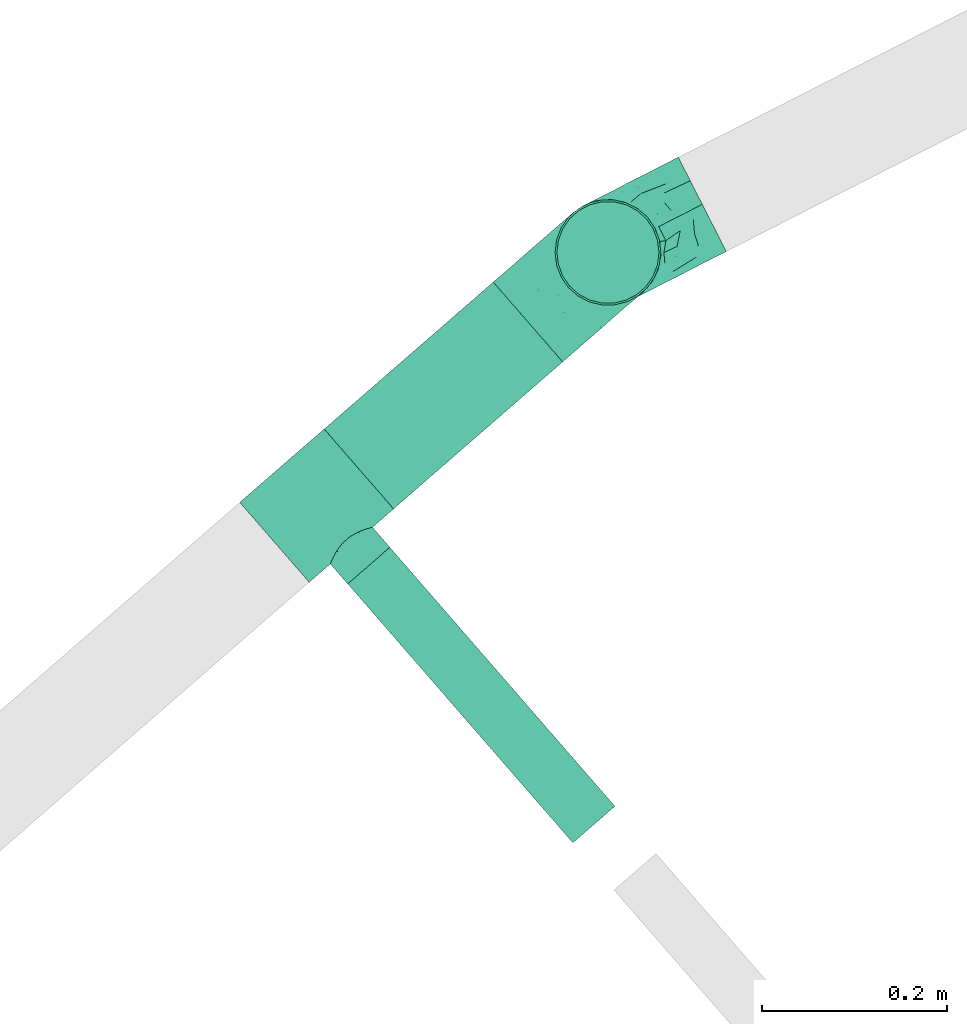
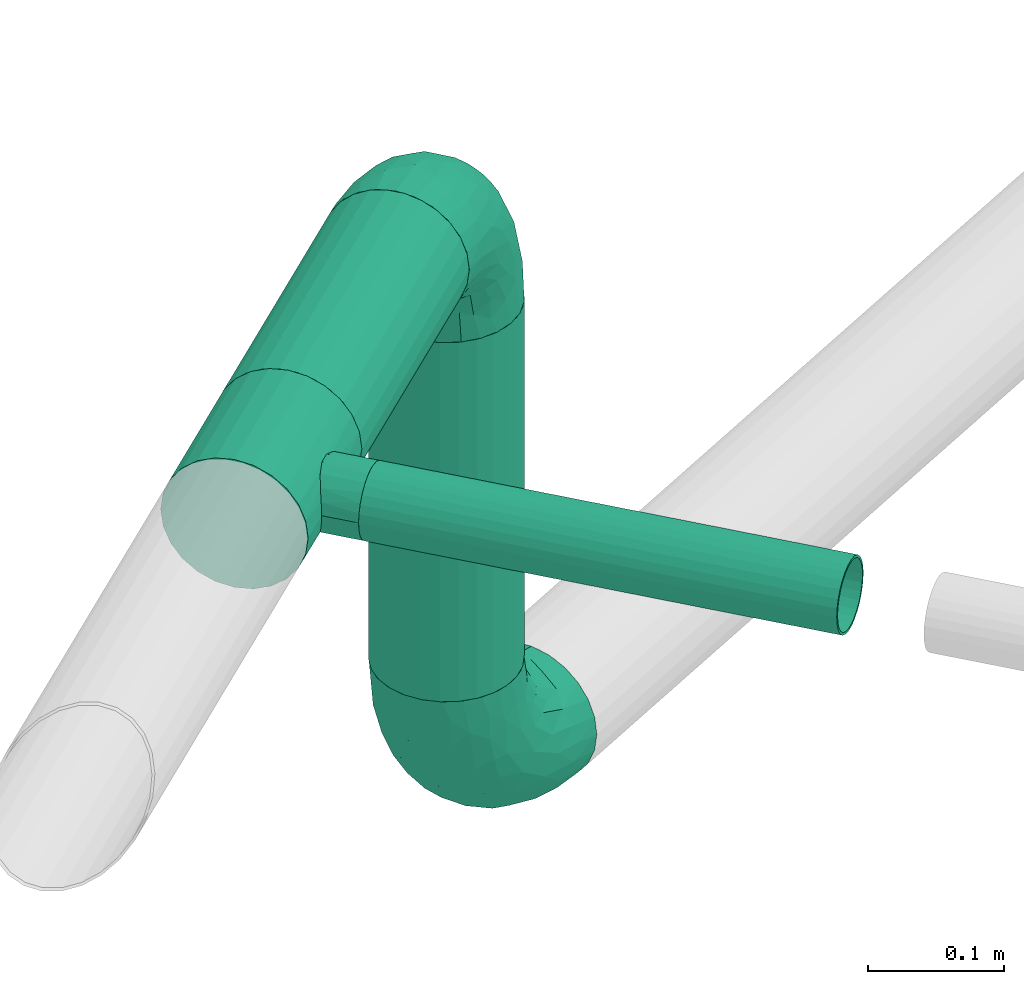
# One storey, part 9 of 94: 3 flow fittings, 3 flow segments.
"""IFC2X3 building model written with IfcOpenShell, lengths in millimetres."""

from ifc_helpers import new_model, entity, si_unit, converted_unit, derived_unit, direction, frame, origin_with_axes, origin_2d_with_axis, place, context, subcontext, project, spatial, hollow_circle, extrude, open_shell, surface_model, source, transform, mapped, type_object, element, save


model = new_model("IFC2X3")

# Units and contexts
model_context = context("Model", 3, precision=0.01, world=frame((0.0, 4.29681676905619e-09, 0.0)), true_north=direction((4.01073788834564e-13, 1.0)))
plan_context = context("Plan", 3, precision=0.01, world=frame((0.0, 4.29681676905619e-09, 0.0)), true_north=direction((4.01073788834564e-13, 1.0)))
body_context = subcontext(model_context, "Body", "Model", "MODEL_VIEW")
ifc_project = project(units=[converted_unit("PLANEANGLEUNIT", "DEGREE", entity("IfcPositiveLengthMeasure", 0.0174532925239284), si_unit("PLANEANGLEUNIT", "RADIAN"), dimensions=[0, 0, 0, 0, 0, 0, 0]), si_unit("AREAUNIT", "SQUARE_METRE"), si_unit("LENGTHUNIT", "METRE", prefix="MILLI"), si_unit("MASSUNIT", "GRAM", prefix="KILO"), si_unit("POWERUNIT", "WATT"), si_unit("PRESSUREUNIT", "PASCAL", prefix="KILO"), si_unit("FORCEUNIT", "NEWTON", prefix="KILO"), si_unit("ELECTRICVOLTAGEUNIT", "VOLT"), si_unit("ELECTRICCURRENTUNIT", "AMPERE"), si_unit("THERMODYNAMICTEMPERATUREUNIT", "DEGREE_CELSIUS"), si_unit("TIMEUNIT", "SECOND"), si_unit("VOLUMEUNIT", "CUBIC_METRE"), derived_unit("LINEARVELOCITYUNIT", [(si_unit("LENGTHUNIT", "METRE"), 1), (si_unit("TIMEUNIT", "SECOND"), -1)]), derived_unit("VOLUMETRICFLOWRATEUNIT", [(si_unit("VOLUMEUNIT", "CUBIC_METRE"), 1), (si_unit("TIMEUNIT", "SECOND"), -1)]), derived_unit("THERMALTRANSMITTANCEUNIT", [(si_unit("POWERUNIT", "WATT"), 1), (si_unit("THERMODYNAMICTEMPERATUREUNIT", "KELVIN"), -1), (si_unit("AREAUNIT", "SQUARE_METRE"), -1)]), derived_unit("SOUNDPRESSUREUNIT", [(si_unit("PRESSUREUNIT", "PASCAL"), 1)])], contexts=[model_context, plan_context])

# Site, building, storey
site_placement = place(None, frame((0.0, -4.29681676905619e-09, 0.0), z_axis=(0.0, 0.0, 1.0), x_axis=(1.0, 0.0, 0.0)))
site = spatial("IfcSite", under=ifc_project, at=site_placement, CompositionType="ELEMENT")
building_placement = place(site_placement, frame((0.0, 4.29681676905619e-09, 0.0), z_axis=(0.0, 0.0, 1.0), x_axis=(1.0, 0.0, 0.0)))
building = spatial("IfcBuilding", under=site, at=building_placement, Name="mc-building", CompositionType="ELEMENT")
storey_placement = place(building_placement, frame((0.0, 0.0, 210900.0), z_axis=(0.0, 0.0, 1.0), x_axis=(1.0, 0.0, 0.0)))
storey = spatial("IfcBuildingStorey", under=building, at=storey_placement, Name="Nivå F", CompositionType="ELEMENT", Elevation=210900.0)

# Flow fittings
pipe_fitting_type_1 = type_object("IfcPipeFittingType", Name="magi_pipe_fe_tee_centric_90_NOR", PredefinedType="JUNCTION")
shared_shape_1 = source(origin_with_axes(), body_context, "Body", "SurfaceModel", [
    surface_model("IfcShellBasedSurfaceModel", [(-60.4, 0.0, -57.2), (-60.4, -14.80445, -55.25096), (-60.4, 14.80445, -55.25096), (-60.4, 28.6, -49.53665), (-60.4, 40.44651, -40.44651), (-60.4, 55.25096, -14.80445), (-60.4, 49.53665, -28.6), (-60.4, -28.6, -49.53665), (-60.4, -40.44651, -40.44651), (-60.4, -49.53665, -28.6), (-60.4, -55.25096, -14.80445), (-60.4, -57.2, 0.0), (-60.4, -28.6, 49.53665), (-60.4, 49.53665, 28.6), (-60.4, 55.25096, 14.80445), (-60.4, 57.2, 0.0), (-60.4, 40.44651, 40.44651), (-60.4, 14.80445, 55.25096), (-60.4, 28.6, 49.53665), (-60.4, 0.0, 57.2), (-60.4, -55.25096, 14.80445), (-60.4, -49.53665, 28.6), (-60.4, -40.44651, 40.44651), (-60.4, -14.80445, 55.25096), (60.4, 14.80445, -55.25096), (60.4, -14.80445, -55.25096), (60.4, 0.0, -57.2), (60.4, 40.44651, -40.44651), (60.4, 28.6, -49.53665), (60.4, 49.53665, -28.6), (60.4, 55.25096, -14.80445), (60.4, -57.2, 0.0), (60.4, -40.44651, -40.44651), (60.4, -28.6, -49.53665), (60.4, -49.53665, -28.6), (60.4, -55.25096, -14.80445), (60.4, 49.53665, 28.6), (60.4, 57.2, 0.0), (60.4, 55.25096, 14.80445), (60.4, -28.6, 49.53665), (60.4, 40.44651, 40.44651), (60.4, 28.6, 49.53665), (60.4, 14.80445, 55.25096), (60.4, 0.0, 57.2), (60.4, -49.53665, 28.6), (60.4, -40.44651, 40.44651), (60.4, -55.25096, 14.80445), (60.4, -14.80445, 55.25096), (60.4, -56.22548, 7.40222), (28.32476, -56.23248, 10.47607), (30.2, -57.2, 0.0), (-28.3257, -56.23295, 10.47352), (-60.4, -56.22548, 7.40222), (-23.08822, -53.78537, 19.46725), (-5.34203, -48.87062, 29.72377), (5.33335, -48.86967, 29.72533), (23.0807, -53.78214, 19.47617), (60.4, -52.3938, 21.70223), (-15.1976, -50.89958, 26.09737), (-60.4, -52.3938, 21.70223), (15.19492, -50.89878, -26.09893), (60.4, -52.3938, -21.70223), (23.0807, -53.78214, -19.47617), (28.32476, -56.23248, -10.47607), (60.4, -56.22548, -7.40222), (-30.2, -57.2, 0.0), (-60.4, -56.22548, -7.40222), (-28.3257, -56.23295, -10.47352), (5.33335, -48.86967, -29.72533), (-23.08822, -53.78537, -19.46725), (-60.4, -52.3938, -21.70223), (-15.1976, -50.89958, -26.09737), (-21.35462, -85.8, -21.35462), (0.0, -85.8, -30.2), (7.81634, -85.8, -29.17096), (15.1, -85.8, -26.15397), (-30.2, -85.8, 0.0), (26.15397, -85.8, -15.1), (21.35462, -85.8, -21.35462), (26.15397, -85.8, 15.1), (-7.81634, -85.8, -29.17096), (-15.1, -85.8, -26.15397), (-29.17096, -85.8, -7.81634), (-26.15397, -85.8, -15.1), (29.17096, -85.8, -7.81634), (30.2, -85.8, 0.0), (29.17096, -85.8, 7.81634), (7.81634, -85.8, 29.17096), (15.1, -85.8, 26.15397), (21.35462, -85.8, 21.35462), (-21.35462, -85.8, 21.35462), (-26.15397, -85.8, 15.1), (-29.17096, -85.8, 7.81634), (-15.1, -85.8, 26.15397), (0.0, -85.8, 30.2), (-7.81634, -85.8, 29.17096), (-29.26285, -56.71648, 5.23676), (29.26238, -56.71624, 5.23804), (-10.26981, -49.8851, 27.91057), (10.26414, -49.88422, 27.91213), (-0.00434, -48.87015, 29.72455), (15.19492, -50.89878, 26.09893), (29.26238, -56.71624, -5.23804), (-29.26285, -56.71648, -5.23676), (10.26414, -49.88422, -27.91213), (-5.34203, -48.87062, -29.72377), (-0.00434, -48.87015, -29.72455), (-10.26981, -49.8851, -27.91057)], [open_shell([[[0, 1, 2]], [[3, 2, 4]], [[5, 6, 4]], [[2, 5, 4]], [[5, 2, 1]], [[7, 8, 1]], [[9, 1, 8]], [[10, 11, 9]], [[1, 9, 11]], [[12, 1, 11]], [[12, 5, 1]], [[13, 14, 15]], [[16, 13, 15]], [[17, 18, 16]], [[15, 17, 16]], [[19, 17, 15]], [[20, 21, 11]], [[21, 22, 11]], [[23, 19, 12]], [[22, 12, 11]], [[12, 19, 15]], [[15, 5, 12]], [[24, 25, 26]], [[27, 24, 28]], [[27, 29, 30]], [[25, 24, 27]], [[31, 27, 30]], [[25, 32, 33]], [[25, 27, 32]], [[27, 34, 32]], [[27, 35, 34]], [[31, 35, 27]], [[30, 36, 31]], [[37, 38, 36]], [[36, 39, 31]], [[40, 41, 42]], [[40, 42, 36]], [[43, 36, 42]], [[44, 39, 45]], [[44, 46, 31]], [[39, 43, 47]], [[31, 39, 44]], [[36, 43, 39]], [[36, 30, 37]], [[48, 46, 49]], [[50, 31, 48]], [[39, 12, 45]], [[51, 20, 52]], [[51, 53, 20]], [[21, 54, 22]], [[54, 55, 22]], [[56, 46, 57]], [[42, 41, 18]], [[50, 48, 49]], [[58, 59, 53]], [[28, 3, 27]], [[60, 61, 62]], [[63, 35, 64]], [[28, 2, 3]], [[65, 66, 67]], [[32, 8, 33]], [[63, 62, 35]], [[32, 68, 8]], [[69, 10, 70]], [[69, 67, 10]], [[70, 9, 71]], [[67, 66, 10]], [[66, 65, 11]], [[72, 73, 74]], [[75, 72, 74]], [[76, 75, 77]], [[77, 75, 78]], [[79, 76, 77]], [[80, 72, 81]], [[80, 73, 72]], [[72, 82, 83]], [[82, 72, 76]], [[75, 76, 72]], [[77, 84, 85]], [[85, 86, 79]], [[87, 76, 79]], [[88, 87, 79]], [[88, 79, 89]], [[76, 87, 90]], [[76, 91, 92]], [[90, 91, 76]], [[93, 94, 95]], [[94, 93, 90]], [[87, 94, 90]], [[79, 77, 85]], [[92, 96, 76]], [[97, 85, 50]], [[98, 93, 95]], [[98, 58, 93]], [[92, 51, 96]], [[51, 92, 91]], [[53, 91, 90]], [[96, 65, 76]], [[51, 91, 53]], [[88, 99, 87]], [[58, 53, 90]], [[95, 54, 98]], [[58, 90, 93]], [[94, 55, 100]], [[88, 101, 99]], [[97, 49, 86]], [[89, 101, 88]], [[49, 79, 86]], [[89, 79, 56]], [[55, 94, 87]], [[99, 55, 87]], [[100, 54, 94]], [[101, 89, 56]], [[56, 79, 49]], [[85, 97, 86]], [[94, 54, 95]], [[84, 102, 85]], [[62, 77, 78]], [[103, 76, 65]], [[84, 63, 102]], [[77, 63, 84]], [[75, 60, 78]], [[102, 50, 85]], [[63, 77, 62]], [[74, 68, 104]], [[60, 62, 78]], [[73, 105, 106]], [[81, 107, 80]], [[104, 60, 75]], [[81, 71, 107]], [[104, 75, 74]], [[103, 67, 82]], [[72, 71, 81]], [[67, 83, 82]], [[72, 83, 69]], [[105, 73, 80]], [[107, 105, 80]], [[106, 68, 73]], [[71, 72, 69]], [[69, 83, 67]], [[76, 103, 82]], [[73, 68, 74]], [[46, 56, 49]], [[44, 45, 55]], [[56, 57, 101]], [[55, 101, 44]], [[45, 22, 55]], [[101, 57, 44]], [[51, 52, 65]], [[11, 65, 52]], [[58, 54, 21]], [[21, 59, 58]], [[53, 59, 20]], [[45, 12, 22]], [[19, 47, 43]], [[23, 39, 47]], [[17, 43, 42]], [[36, 38, 14]], [[16, 41, 40]], [[13, 40, 36]], [[15, 38, 37]], [[12, 39, 23]], [[23, 47, 19]], [[17, 19, 43]], [[42, 18, 17]], [[18, 41, 16]], [[13, 16, 40]], [[14, 13, 36]], [[38, 15, 14]], [[15, 37, 30]], [[6, 29, 27]], [[5, 30, 29]], [[26, 25, 1]], [[2, 28, 24]], [[0, 24, 26]], [[33, 7, 25]], [[6, 27, 4]], [[15, 30, 5]], [[5, 29, 6]], [[4, 27, 3]], [[0, 2, 24]], [[1, 0, 26]], [[25, 7, 1]], [[33, 8, 7]], [[32, 34, 68]], [[60, 68, 34]], [[61, 60, 34]], [[31, 50, 64]], [[63, 64, 50]], [[35, 62, 61]], [[105, 71, 9]], [[9, 8, 105]], [[69, 70, 71]], [[105, 8, 68]]])]),
])
flow_fitting_placement = place(storey_placement, frame((717988.09473, 442070.19, 4200.0), z_axis=(0.0, 0.0, -1.0), x_axis=(-0.754709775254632, -0.65605880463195, 0.0)))
element("IfcFlowFitting", 1, at=flow_fitting_placement, inside=storey, type_object=pipe_fitting_type_1, Name="magi_pipe_fe_tee_centric_90_NOR", context=body_context, shape_type="MappedRepresentation", body=[
    mapped(shared_shape_1, transform((0.0, 0.0, 0.0), scale=1.0)),
])
pipe_fitting_type_2 = type_object("IfcPipeFittingType", Name="magi_pipe_fe_elbow_short_001", PredefinedType="BEND")
shared_shape_2 = source(origin_with_axes(), body_context, "Body", "SurfaceModel", [
    surface_model("IfcShellBasedSurfaceModel", [(-114.4, 28.6, -49.53665), (-114.4, 14.80445, -55.25096), (-114.4, 40.44651, -40.44651), (-114.4, 55.25096, -14.80445), (-114.4, 49.53665, -28.6), (-114.4, -28.6, -49.53665), (-114.4, -40.44651, -40.44651), (-114.4, -14.80445, -55.25096), (-114.4, -49.53665, -28.6), (-114.4, 14.80445, 55.25096), (-114.4, 28.6, 49.53665), (-114.4, 40.44651, 40.44651), (-114.4, -14.80445, 55.25096), (-114.4, 0.0, 57.2), (-114.4, -28.6, 49.53665), (-114.4, 0.0, -57.2), (-114.4, -57.2, 0.0), (-114.4, -55.25096, 14.80445), (-114.4, -55.25096, -14.80445), (-114.4, 55.25096, 14.80445), (-114.4, 49.53665, 28.6), (-114.4, -49.53665, 28.6), (-114.4, -40.44651, 40.44651), (-114.4, 57.2, 0.0), (-55.25096, 114.4, -14.80445), (0.0, 114.4, -57.2), (-14.80445, 114.4, -55.25096), (-40.44651, 114.4, -40.44651), (-28.6, 114.4, -49.53665), (-49.53665, 114.4, -28.6), (14.80445, 114.4, -55.25096), (40.44651, 114.4, -40.44651), (28.6, 114.4, -49.53665), (49.53665, 114.4, -28.6), (55.25096, 114.4, -14.80445), (55.25096, 114.4, 14.80445), (57.2, 114.4, 0.0), (-57.2, 114.4, 0.0), (-14.80445, 114.4, 55.25096), (-55.25096, 114.4, 14.80445), (-49.53665, 114.4, 28.6), (-40.44651, 114.4, 40.44651), (-28.6, 114.4, 49.53665), (0.0, 114.4, 57.2), (40.44651, 114.4, 40.44651), (49.53665, 114.4, 28.6), (28.6, 114.4, 49.53665), (14.80445, 114.4, 55.25096), (-84.09593, -44.4609, 32.12695), (-78.31406, -50.35834, 18.09064), (-69.98665, -51.35287, 0.0), (-86.12558, -53.4776, 0.0), (26.94956, 24.61896, 21.38398), (23.80365, 28.9282, 30.95802), (13.45254, 9.10514, 25.44273), (25.9081, 46.58786, 39.43223), (13.7887, 44.17442, 47.56969), (11.34962, 21.0489, 38.60008), (-84.01314, -21.62253, 51.45941), (-44.17442, -13.7887, 47.56969), (-56.94795, -0.51331, 55.44129), (32.95049, 74.83723, 42.6022), (-74.83723, -32.95049, 42.6022), (-42.18394, -39.22352, 14.42655), (-49.29333, -42.78141, 0.0), (-28.6, -34.20996, 0.0), (-58.45256, 98.94035, 9.79038), (-66.4917, 80.68838, 12.49108), (-53.86806, 99.27813, 23.81237), (-98.96354, 34.63934, 46.60793), (-89.417, 47.68321, 37.53853), (-78.75499, 65.06315, 20.1487), (-69.82753, 67.46423, 28.36371), (-19.87966, 56.25042, 57.09737), (-42.36887, 42.36887, 55.81016), (-34.05979, 24.99593, 56.90536), (-87.38329, -7.57744, 56.22174), (-21.35173, 98.66622, 53.57802), (-7.8395, 85.56313, 57.05951), (-80.09857, 8.76799, 57.10251), (-83.13978, 56.87572, 29.62494), (-95.78145, 56.41971, 20.22865), (-4.03731, -9.15242, 25.37061), (-0.31511, 1.93743, 34.27014), (-19.64541, -13.64401, 35.44878), (-99.46039, 58.3547, 9.54675), (-81.27929, 66.79656, 9.48548), (-15.40877, -22.34715, 17.62592), (-22.36541, -22.21366, 27.19261), (-73.95349, 73.95349, 0.0), (-92.51051, 61.55409, 0.0), (-88.17421, 22.43358, 54.03359), (-14.9308, 38.31107, 56.16455), (-28.42151, 10.49345, 53.41327), (-5.8435, 30.90358, 52.5661), (-10.21756, 10.21755, 46.76585), (42.78141, 49.29333, 0.0), (39.22352, 42.18394, 14.42655), (34.20996, 28.6, 0.0), (44.4609, 84.09592, 32.12695), (36.19253, 49.91251, 28.8024), (50.35834, 78.31406, 18.09064), (-49.91251, -36.19253, 28.8024), (7.57744, 87.38329, 56.22174), (-60.81025, 38.81169, 52.90665), (-62.85564, 24.50144, 56.17637), (-56.12825, 14.01645, 57.17559), (53.4776, 86.12558, 0.0), (-46.75202, 73.27275, 45.06221), (-46.9952, 92.15035, 37.23874), (-60.2947, 63.88032, 40.51735), (-24.73794, 77.5074, 54.475), (-61.55409, 92.51051, 0.0), (-36.14627, 88.5894, 47.41169), (-43.26537, 61.83435, 50.97453), (21.62253, 84.01314, 51.45941), (-46.00205, -25.9418, 39.12939), (51.35287, 69.98665, 0.0), (-61.09042, 51.32771, 47.53469), (-78.767, 38.82835, 48.1683), (-33.31996, 59.37645, 54.79482), (0.51331, 56.94795, 55.44129), (5.79077, -5.18269, 15.19079), (-10.83024, -20.57474, 0.0), (6.93952, -6.93952, 0.0), (23.49511, 14.39974, 11.94799), (-59.03888, 80.99895, 28.23898), (20.57474, 10.83024, 0.0), (-83.04443, 37.50478, -47.83872), (-46.7296, -14.43559, -47.98954), (-49.66925, -0.71351, -54.4039), (-22.98222, -0.95718, -46.86946), (-90.55199, 7.23257, -57.01383), (-54.75453, -42.94222, -19.23712), (-83.44606, -51.20699, -18.64769), (-71.87032, -42.41832, -30.98153), (-88.01588, 22.45879, -54.04029), (-98.18309, 58.60159, -10.14716), (-35.90195, 89.79916, -47.31841), (-23.34952, 83.22029, -54.2411), (-80.26787, 66.2254, -14.3937), (19.74031, 72.43815, -50.87234), (22.54998, 96.60498, -52.05852), (34.17345, 82.75348, -43.18686), (-90.43853, 47.41296, -37.42627), (-68.98462, 52.41771, -43.14017), (11.06584, -0.7936, -12.00107), (27.03813, 18.93136, -10.41988), (-96.3016, -45.5344, -33.23337), (-52.97553, 66.48107, -44.04492), (-52.86453, 52.86452, -50.22362), (-28.87984, -29.47599, -21.57809), (-3.55846, -9.07581, -24.83342), (-7.95171, -18.66805, -11.6242), (-82.75348, -34.17345, -43.18686), (-17.0405, -11.44162, -35.68108), (4.58756, 9.16491, -36.00386), (2.40801, 26.86922, -47.70218), (23.33331, 42.70851, -40.01405), (7.21222, 84.27391, -56.15415), (51.20699, 83.44606, -18.64769), (-96.60498, -22.54998, -52.05852), (-42.70851, -23.33331, -40.01405), (-32.66648, -25.63204, -31.50784), (-62.42537, -26.11783, -44.91241), (-72.43815, -19.74031, -50.87234), (-84.27391, -7.21222, -56.15415), (-40.73478, 69.943, -49.6748), (30.94592, 38.60137, -28.62302), (42.41832, 71.87032, -30.98153), (40.14472, 45.8091, -16.78391), (-61.46613, 86.51054, -17.15009), (-69.51015, 68.0086, -28.05795), (0.71351, 49.66925, -54.4039), (11.82215, 48.83229, -49.96982), (-20.19298, 20.19298, -54.01217), (-49.4829, 83.72871, -38.16953), (-53.76637, 92.94659, -27.63224), (-7.23257, 90.55199, -57.01383), (45.5344, 96.3016, -33.23337), (-13.52193, 63.0147, -57.18765), (-30.92964, 33.3773, -57.16753), (-33.84558, 54.22558, -55.4975), (19.59603, 14.03839, -21.47962), (-56.47488, 33.10259, -55.31134), (-92.36856, 55.57393, -24.7177), (-35.50893, -36.67608, -11.48997), (-63.01471, 13.52193, -57.18765), (-63.79002, 64.78214, -37.11384)], [open_shell([[[0, 1, 2]], [[3, 4, 2]], [[1, 3, 2]], [[5, 6, 7]], [[8, 7, 6]], [[9, 10, 11]], [[12, 13, 14]], [[1, 15, 3]], [[7, 3, 15]], [[16, 17, 18]], [[7, 8, 17]], [[17, 8, 18]], [[3, 7, 19]], [[19, 7, 17]], [[20, 19, 9]], [[20, 9, 11]], [[9, 19, 17]], [[21, 22, 17]], [[14, 17, 22]], [[9, 17, 14]], [[14, 13, 9]], [[23, 3, 19]], [[24, 25, 26]], [[27, 26, 28]], [[27, 29, 24]], [[27, 24, 26]], [[25, 24, 30]], [[30, 31, 32]], [[31, 30, 33]], [[34, 35, 36]], [[33, 30, 24]], [[34, 33, 35]], [[33, 24, 37]], [[38, 37, 39]], [[38, 39, 40]], [[41, 42, 38]], [[41, 38, 40]], [[37, 38, 43]], [[35, 44, 45]], [[44, 35, 46]], [[46, 43, 47]], [[46, 35, 37]], [[37, 43, 46]], [[37, 35, 33]], [[48, 21, 49]], [[50, 49, 51]], [[52, 53, 54]], [[49, 21, 17]], [[17, 51, 49]], [[55, 56, 57]], [[22, 21, 48]], [[58, 59, 60]], [[61, 44, 46]], [[62, 14, 22]], [[62, 58, 14]], [[63, 64, 65]], [[66, 67, 68]], [[11, 69, 70]], [[67, 71, 72]], [[20, 11, 70]], [[73, 74, 75]], [[10, 69, 11]], [[12, 76, 13]], [[38, 77, 78]], [[13, 79, 9]], [[80, 81, 20]], [[82, 83, 84]], [[23, 19, 85]], [[71, 86, 85]], [[87, 82, 88]], [[89, 90, 86]], [[91, 9, 79]], [[9, 91, 10]], [[92, 93, 94]], [[95, 59, 84]], [[71, 85, 81]], [[96, 97, 98]], [[45, 44, 99]], [[100, 101, 99]], [[87, 88, 63]], [[48, 102, 62]], [[47, 43, 103]], [[104, 91, 105]], [[101, 35, 45]], [[39, 68, 40]], [[99, 101, 45]], [[105, 106, 75]], [[101, 107, 35]], [[49, 50, 64]], [[108, 109, 110]], [[111, 73, 78]], [[86, 67, 89]], [[13, 76, 79]], [[112, 66, 37]], [[42, 41, 113]], [[89, 67, 112]], [[80, 72, 71]], [[113, 111, 77]], [[114, 111, 113]], [[40, 68, 109]], [[115, 46, 47]], [[14, 58, 12]], [[61, 115, 56]], [[42, 77, 38]], [[43, 38, 78]], [[116, 59, 62]], [[66, 112, 67]], [[61, 46, 115]], [[101, 96, 117]], [[108, 118, 114]], [[118, 70, 119]], [[81, 80, 71]], [[109, 41, 40]], [[111, 114, 120]], [[111, 120, 73]], [[103, 78, 121]], [[59, 58, 62]], [[76, 58, 60]], [[116, 62, 102]], [[59, 95, 93]], [[103, 115, 47]], [[121, 94, 56]], [[121, 56, 115]], [[56, 95, 57]], [[105, 91, 79]], [[69, 91, 119]], [[102, 48, 49]], [[62, 22, 48]], [[44, 61, 99]], [[100, 99, 61]], [[122, 123, 124]], [[87, 122, 82]], [[87, 63, 65]], [[98, 97, 125]], [[122, 124, 125]], [[56, 55, 61]], [[85, 86, 90]], [[67, 86, 71]], [[23, 85, 90]], [[85, 19, 81]], [[19, 20, 81]], [[80, 20, 70]], [[70, 110, 80]], [[72, 110, 126]], [[113, 108, 114]], [[104, 118, 119]], [[105, 75, 74]], [[121, 78, 73]], [[93, 75, 60]], [[73, 75, 92]], [[78, 103, 43]], [[115, 103, 121]], [[58, 76, 12]], [[79, 76, 60]], [[110, 109, 126]], [[113, 41, 109]], [[105, 79, 106]], [[104, 105, 74]], [[114, 104, 74]], [[91, 104, 119]], [[114, 118, 104]], [[70, 118, 110]], [[79, 60, 106]], [[60, 75, 106]], [[110, 72, 80]], [[67, 72, 126]], [[83, 95, 84]], [[53, 57, 54]], [[53, 55, 57]], [[100, 61, 55]], [[59, 93, 60]], [[94, 93, 95]], [[56, 94, 95]], [[92, 94, 121]], [[73, 92, 121]], [[93, 92, 75]], [[68, 67, 126]], [[37, 66, 39]], [[17, 16, 51]], [[107, 101, 117]], [[107, 36, 35]], [[64, 63, 49]], [[49, 63, 102]], [[97, 101, 100]], [[101, 97, 96]], [[100, 53, 52]], [[122, 125, 54]], [[125, 124, 127]], [[82, 122, 54]], [[87, 123, 122]], [[83, 54, 57]], [[88, 82, 84]], [[116, 88, 84]], [[63, 88, 102]], [[54, 83, 82]], [[95, 83, 57]], [[91, 69, 10]], [[70, 69, 119]], [[113, 77, 42]], [[78, 77, 111]], [[66, 68, 39]], [[109, 68, 126]], [[88, 116, 102]], [[84, 59, 116]], [[87, 65, 123]], [[114, 74, 120]], [[73, 120, 74]], [[109, 108, 113]], [[118, 108, 110]], [[54, 125, 52]], [[55, 53, 100]], [[125, 97, 52]], [[100, 52, 97]], [[127, 98, 125]], [[2, 128, 0]], [[129, 130, 131]], [[15, 1, 132]], [[133, 134, 135]], [[0, 136, 1]], [[136, 0, 128]], [[90, 137, 23]], [[138, 28, 139]], [[90, 140, 137]], [[141, 142, 143]], [[144, 145, 128]], [[146, 147, 127]], [[26, 139, 28]], [[128, 2, 144]], [[134, 8, 148]], [[145, 149, 150]], [[134, 51, 18]], [[151, 152, 153]], [[154, 6, 5]], [[152, 155, 156]], [[156, 157, 158]], [[30, 159, 25]], [[160, 33, 34]], [[6, 148, 8]], [[5, 161, 154]], [[162, 163, 135]], [[135, 154, 164]], [[161, 5, 7]], [[165, 166, 130]], [[149, 167, 150]], [[89, 140, 90]], [[168, 169, 170]], [[171, 172, 140]], [[157, 173, 174]], [[24, 171, 37]], [[157, 175, 173]], [[166, 7, 15]], [[176, 177, 29]], [[172, 171, 177]], [[32, 31, 143]], [[25, 178, 26]], [[26, 178, 139]], [[179, 31, 33]], [[27, 28, 138]], [[29, 27, 176]], [[159, 30, 142]], [[161, 166, 165]], [[180, 181, 182]], [[171, 89, 112]], [[169, 160, 170]], [[152, 163, 155]], [[142, 30, 32]], [[143, 158, 141]], [[156, 168, 183]], [[160, 107, 117]], [[182, 139, 180]], [[184, 136, 128]], [[160, 169, 179]], [[8, 134, 18]], [[180, 159, 173]], [[144, 185, 172]], [[171, 112, 37]], [[149, 138, 167]], [[185, 3, 137]], [[153, 65, 186]], [[2, 4, 144]], [[179, 143, 31]], [[158, 143, 169]], [[173, 159, 141]], [[178, 159, 180]], [[174, 158, 157]], [[173, 175, 181]], [[160, 34, 107]], [[170, 117, 96]], [[147, 170, 98]], [[168, 170, 183]], [[165, 129, 164]], [[148, 154, 135]], [[132, 166, 15]], [[187, 181, 130]], [[187, 130, 166]], [[130, 175, 131]], [[135, 163, 133]], [[34, 36, 107]], [[171, 140, 89]], [[177, 24, 29]], [[185, 4, 3]], [[128, 145, 150]], [[184, 128, 150]], [[132, 136, 187]], [[139, 182, 167]], [[176, 27, 138]], [[158, 168, 156]], [[131, 175, 157]], [[152, 156, 183]], [[156, 155, 131]], [[156, 131, 157]], [[131, 162, 129]], [[172, 185, 140]], [[144, 4, 185]], [[136, 132, 1]], [[166, 132, 187]], [[159, 178, 25]], [[139, 178, 180]], [[180, 173, 181]], [[184, 150, 182]], [[130, 181, 175]], [[184, 181, 187]], [[181, 184, 182]], [[136, 184, 187]], [[172, 188, 144]], [[188, 176, 149]], [[151, 186, 133]], [[64, 133, 186]], [[153, 146, 124]], [[155, 163, 162]], [[146, 152, 183]], [[153, 123, 65]], [[188, 149, 145]], [[138, 149, 176]], [[139, 167, 138]], [[182, 150, 167]], [[144, 188, 145]], [[176, 188, 172]], [[163, 152, 151]], [[131, 155, 162]], [[152, 146, 153]], [[147, 146, 183]], [[170, 147, 183]], [[127, 124, 146]], [[147, 98, 127]], [[153, 186, 151]], [[64, 50, 133]], [[186, 65, 64]], [[50, 134, 133]], [[163, 151, 133]], [[51, 134, 50]], [[51, 16, 18]], [[185, 137, 140]], [[23, 137, 3]], [[143, 142, 32]], [[159, 142, 141]], [[160, 179, 33]], [[143, 179, 169]], [[166, 161, 7]], [[154, 161, 165]], [[154, 148, 6]], [[134, 148, 135]], [[117, 170, 160]], [[96, 98, 170]], [[169, 168, 158]], [[172, 177, 176]], [[24, 177, 171]], [[173, 141, 174]], [[158, 174, 141]], [[164, 129, 162]], [[130, 129, 165]], [[135, 164, 162]], [[165, 164, 154]], [[153, 124, 123]]])]),
])
for number, where, z_axis, x_axis, name in (
    (2, (718302.61719, 442343.60021, 4200.0), (0.65605880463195, -0.754709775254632, 0.0), (0.0, 0.0, 1.0), "magi_pipe_fe_elbow_short_001"),
    (3, (718302.61719, 442343.60021, 3650.0), (-0.453989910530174, 0.891006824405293, -2.64697796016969e-22), (-0.891006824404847, -0.453989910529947, -9.99999802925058e-07), "magi_pipe_fe_elbow_short_001"),
):
    element("IfcFlowFitting", number, at=place(storey_placement, frame(where, z_axis=z_axis, x_axis=x_axis)), inside=storey, type_object=pipe_fitting_type_2, Name=name, context=body_context, shape_type="MappedRepresentation", body=[
        mapped(shared_shape_2, transform((0.0, 0.0, 0.0), scale=1.0)),
    ])

# Flow segments
pipe_segment_type = type_object("IfcPipeSegmentType", Name="Stålrør normaltykke", PredefinedType="RIGIDSEGMENT")
shared_shape_3 = source(origin_with_axes(), body_context, "Body", "SweptSolid", [
    extrude(hollow_circle(Radius=57.1, WallThickness=2.0, at=origin_2d_with_axis()), frame((0.0, 0.0, 0.0), z_axis=(1.0, 0.0, 0.0), x_axis=(0.0, 1.0, 0.0)), (0.0, 0.0, 1.0), 241.9),
])
flow_segment_1_placement = place(storey_placement, frame((718033.67919, 442109.81597, 4200.0), z_axis=(0.0, 0.0, 1.0), x_axis=(0.754709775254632, 0.65605880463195, 0.0)))
element("IfcFlowSegment", 4, at=flow_segment_1_placement, inside=storey, type_object=pipe_segment_type, Name="Stålrør normaltykke", context=body_context, shape_type="MappedRepresentation", body=[
    mapped(shared_shape_3, transform((0.0, 0.0, 0.0), scale=1.0)),
])
shared_shape_4 = source(origin_with_axes(), body_context, "Body", "SweptSolid", [
    extrude(hollow_circle(Radius=30.1, WallThickness=2.0, at=origin_2d_with_axis()), frame((0.0, 0.0, 0.0), z_axis=(1.0, 0.0, 0.0), x_axis=(0.0, 1.0, 0.0)), (0.0, 0.0, 1.0), 370.5),
])
flow_segment_2_placement = place(storey_placement, frame((718044.38459, 442005.43592, 4200.0), z_axis=(0.0, 0.0, 1.0), x_axis=(0.65605880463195, -0.754709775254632, 0.0)))
element("IfcFlowSegment", 5, at=flow_segment_2_placement, inside=storey, type_object=pipe_segment_type, Name="Stålrør normaltykke", context=body_context, shape_type="MappedRepresentation", body=[
    mapped(shared_shape_4, transform((0.0, 0.0, 0.0), scale=1.0)),
])
shared_shape_5 = source(origin_with_axes(), body_context, "Body", "SweptSolid", [
    extrude(hollow_circle(Radius=57.1, WallThickness=2.0, at=origin_2d_with_axis()), frame((0.0, 0.0, 0.0), z_axis=(1.0, 0.0, 0.0), x_axis=(0.0, 1.0, 0.0)), (0.0, 0.0, 1.0), 321.2),
])
flow_segment_3_placement = place(storey_placement, frame((718302.61719, 442343.60021, 4085.60000000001), z_axis=(0.0, 1.0, 0.0), x_axis=(0.0, 0.0, -1.0)))
element("IfcFlowSegment", 6, at=flow_segment_3_placement, inside=storey, type_object=pipe_segment_type, Name="Stålrør normaltykke", context=body_context, shape_type="MappedRepresentation", body=[
    mapped(shared_shape_5, transform((0.0, 0.0, 0.0), scale=1.0)),
])

save(model, "model.ifc")
